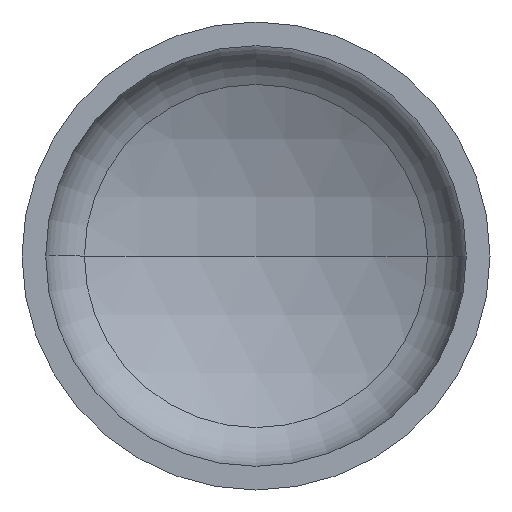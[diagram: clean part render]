
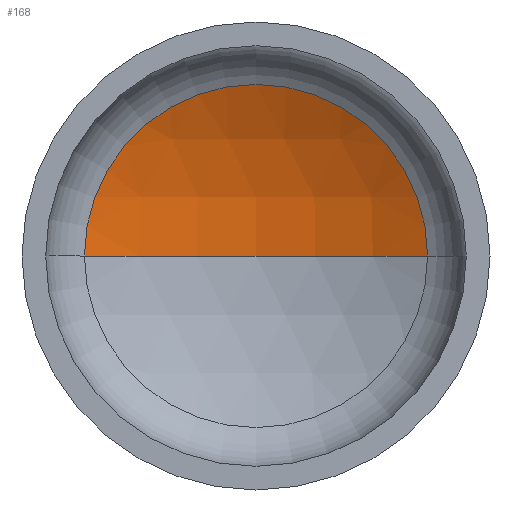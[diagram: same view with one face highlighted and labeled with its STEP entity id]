
A CAD part, front view. The second image highlights one B-rep face of the part: STEP entity #168.
In plain terms, the highlighted spherical face has radius 1360 mm.
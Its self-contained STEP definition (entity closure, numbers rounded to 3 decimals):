
#6 = ORIENTED_EDGE ( 'NONE', *, *, #29, .T. ) ;
#22 = EDGE_LOOP ( 'NONE', ( #62, #46, #6 ) ) ;
#29 = EDGE_CURVE ( 'NONE', #108, #37, #195, .T. ) ;
#37 = VERTEX_POINT ( 'NONE', #294 ) ;
#46 = ORIENTED_EDGE ( 'NONE', *, *, #68, .T. ) ;
#54 = CARTESIAN_POINT ( 'NONE',  ( 623.127, 331.103, 0. ) ) ;
#61 = VERTEX_POINT ( 'NONE', #283 ) ;
#62 = ORIENTED_EDGE ( 'NONE', *, *, #70, .F. ) ;
#68 = EDGE_CURVE ( 'NONE', #61, #108, #307, .T. ) ;
#70 = EDGE_CURVE ( 'NONE', #61, #37, #372, .T. ) ;
#108 = VERTEX_POINT ( 'NONE', #54 ) ;
#116 = CARTESIAN_POINT ( 'NONE',  ( 0., -877.744, 0. ) ) ;
#134 = DIRECTION ( 'NONE',  ( 0., 0., -1. ) ) ;
#141 = DIRECTION ( 'NONE',  ( -1., 0., 0. ) ) ;
#144 = AXIS2_PLACEMENT_3D ( 'NONE', #116, #134, #141 ) ;
#155 = DIRECTION ( 'NONE',  ( 1., 0., 0. ) ) ;
#157 = DIRECTION ( 'NONE',  ( 0., 0., 1. ) ) ;
#168 = ADVANCED_FACE ( 'NONE', ( #360 ), #236, .F. ) ;
#172 = DIRECTION ( 'NONE',  ( 1., 0., 0. ) ) ;
#187 = CARTESIAN_POINT ( 'NONE',  ( 0., 331.103, 0. ) ) ;
#188 = DIRECTION ( 'NONE',  ( 0., -1., 0. ) ) ;
#195 = CIRCLE ( 'NONE', #289, 623.127 ) ;
#213 = CARTESIAN_POINT ( 'NONE',  ( 0., -877.744, 0. ) ) ;
#236 = SPHERICAL_SURFACE ( 'NONE', #144, 1360. ) ;
#248 = DIRECTION ( 'NONE',  ( -1., 0., 0. ) ) ;
#249 = DIRECTION ( 'NONE',  ( 0., 0., -1. ) ) ;
#250 = CARTESIAN_POINT ( 'NONE',  ( 0., -877.744, 0. ) ) ;
#283 = CARTESIAN_POINT ( 'NONE',  ( 0., 482.256, 0. ) ) ;
#289 = AXIS2_PLACEMENT_3D ( 'NONE', #187, #188, #172 ) ;
#294 = CARTESIAN_POINT ( 'NONE',  ( -623.127, 331.103, 0. ) ) ;
#307 = CIRCLE ( 'NONE', #355, 1360. ) ;
#355 = AXIS2_PLACEMENT_3D ( 'NONE', #250, #249, #248 ) ;
#360 = FACE_OUTER_BOUND ( 'NONE', #22, .T. ) ;
#371 = AXIS2_PLACEMENT_3D ( 'NONE', #213, #157, #155 ) ;
#372 = CIRCLE ( 'NONE', #371, 1360. ) ;
